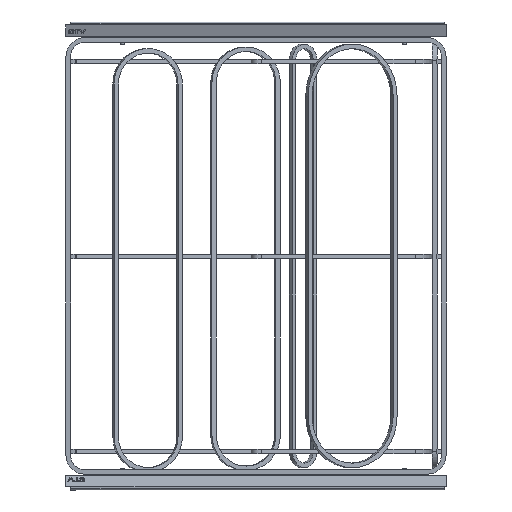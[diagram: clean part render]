
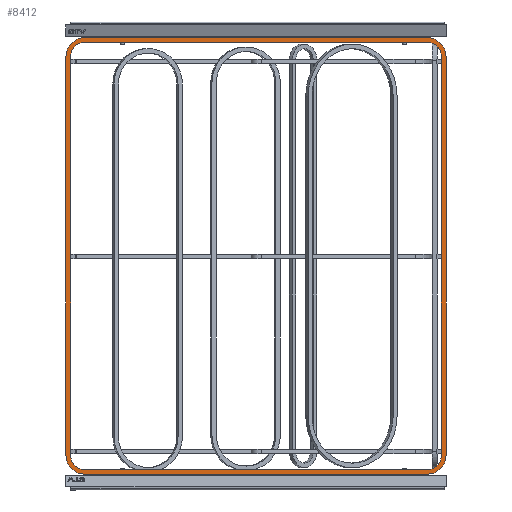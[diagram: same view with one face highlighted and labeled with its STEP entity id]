
A CAD part, front view. The second image highlights one B-rep face of the part: STEP entity #8412.
In plain terms, the highlighted planar face has unit normal (0.001, -1, 0) as drawn and (0, 1, 0) by its records, which use the part's own axes.
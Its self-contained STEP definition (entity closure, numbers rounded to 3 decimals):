
#205=FACE_BOUND('',#1384,.T.);
#413=CIRCLE('',#9138,17.25);
#416=CIRCLE('',#9142,22.75);
#417=CIRCLE('',#9146,17.25);
#420=CIRCLE('',#9150,22.75);
#421=CIRCLE('',#9154,17.25);
#424=CIRCLE('',#9158,22.75);
#425=CIRCLE('',#9162,17.25);
#428=CIRCLE('',#9167,22.75);
#935=FACE_OUTER_BOUND('',#1383,.T.);
#1383=EDGE_LOOP('',(#5863,#5864,#5865,#5866,#5867,#5868,#5869,#5870));
#1384=EDGE_LOOP('',(#5871,#5872,#5873,#5874,#5875,#5876,#5877,#5878));
#1922=LINE('',#12554,#2771);
#1926=LINE('',#12561,#2775);
#1930=LINE('',#12578,#2779);
#1934=LINE('',#12585,#2783);
#1938=LINE('',#12602,#2787);
#1942=LINE('',#12609,#2791);
#1947=LINE('',#12626,#2796);
#1948=LINE('',#12627,#2797);
#2771=VECTOR('',#10087,10.);
#2775=VECTOR('',#10093,10.);
#2779=VECTOR('',#10111,10.);
#2783=VECTOR('',#10117,10.);
#2787=VECTOR('',#10135,10.);
#2791=VECTOR('',#10141,10.);
#2796=VECTOR('',#10162,10.);
#2797=VECTOR('',#10163,10.);
#3612=VERTEX_POINT('',#12534);
#3613=VERTEX_POINT('',#12536);
#3615=VERTEX_POINT('',#12542);
#3618=VERTEX_POINT('',#12547);
#3620=VERTEX_POINT('',#12552);
#3621=VERTEX_POINT('',#12557);
#3624=VERTEX_POINT('',#12564);
#3625=VERTEX_POINT('',#12569);
#3628=VERTEX_POINT('',#12576);
#3629=VERTEX_POINT('',#12581);
#3632=VERTEX_POINT('',#12588);
#3633=VERTEX_POINT('',#12593);
#3636=VERTEX_POINT('',#12600);
#3637=VERTEX_POINT('',#12605);
#3640=VERTEX_POINT('',#12612);
#3642=VERTEX_POINT('',#12622);
#4466=EDGE_CURVE('',#3612,#3613,#413,.T.);
#4472=EDGE_CURVE('',#3615,#3618,#416,.T.);
#4474=EDGE_CURVE('',#3620,#3612,#1922,.T.);
#4478=EDGE_CURVE('',#3621,#3615,#1926,.T.);
#4480=EDGE_CURVE('',#3624,#3620,#417,.T.);
#4484=EDGE_CURVE('',#3625,#3621,#420,.T.);
#4486=EDGE_CURVE('',#3628,#3624,#1930,.T.);
#4490=EDGE_CURVE('',#3629,#3625,#1934,.T.);
#4492=EDGE_CURVE('',#3632,#3628,#421,.T.);
#4496=EDGE_CURVE('',#3633,#3629,#424,.T.);
#4498=EDGE_CURVE('',#3636,#3632,#1938,.T.);
#4502=EDGE_CURVE('',#3637,#3633,#1942,.T.);
#4504=EDGE_CURVE('',#3640,#3636,#425,.T.);
#4510=EDGE_CURVE('',#3642,#3637,#428,.T.);
#4511=EDGE_CURVE('',#3618,#3642,#1947,.T.);
#4512=EDGE_CURVE('',#3613,#3640,#1948,.T.);
#5863=ORIENTED_EDGE('',*,*,#4510,.T.);
#5864=ORIENTED_EDGE('',*,*,#4502,.T.);
#5865=ORIENTED_EDGE('',*,*,#4496,.T.);
#5866=ORIENTED_EDGE('',*,*,#4490,.T.);
#5867=ORIENTED_EDGE('',*,*,#4484,.T.);
#5868=ORIENTED_EDGE('',*,*,#4478,.T.);
#5869=ORIENTED_EDGE('',*,*,#4472,.T.);
#5870=ORIENTED_EDGE('',*,*,#4511,.T.);
#5871=ORIENTED_EDGE('',*,*,#4512,.F.);
#5872=ORIENTED_EDGE('',*,*,#4466,.F.);
#5873=ORIENTED_EDGE('',*,*,#4474,.F.);
#5874=ORIENTED_EDGE('',*,*,#4480,.F.);
#5875=ORIENTED_EDGE('',*,*,#4486,.F.);
#5876=ORIENTED_EDGE('',*,*,#4492,.F.);
#5877=ORIENTED_EDGE('',*,*,#4498,.F.);
#5878=ORIENTED_EDGE('',*,*,#4504,.F.);
#8134=PLANE('',#9168);
#8412=ADVANCED_FACE('',(#935,#205),#8134,.T.);
#9138=AXIS2_PLACEMENT_3D('',#12537,#10071,#10072);
#9142=AXIS2_PLACEMENT_3D('',#12549,#10082,#10083);
#9146=AXIS2_PLACEMENT_3D('',#12566,#10097,#10098);
#9150=AXIS2_PLACEMENT_3D('',#12573,#10106,#10107);
#9154=AXIS2_PLACEMENT_3D('',#12590,#10121,#10122);
#9158=AXIS2_PLACEMENT_3D('',#12597,#10130,#10131);
#9162=AXIS2_PLACEMENT_3D('',#12614,#10145,#10146);
#9167=AXIS2_PLACEMENT_3D('',#12624,#10158,#10159);
#9168=AXIS2_PLACEMENT_3D('',#12625,#10160,#10161);
#10071=DIRECTION('center_axis',(0.,1.,0.));
#10072=DIRECTION('ref_axis',(0.,0.,-1.));
#10082=DIRECTION('center_axis',(0.,1.,0.));
#10083=DIRECTION('ref_axis',(0.,0.,-1.));
#10087=DIRECTION('',(-1.,0.,0.));
#10093=DIRECTION('',(-1.,0.,0.));
#10097=DIRECTION('center_axis',(0.,1.,0.));
#10098=DIRECTION('ref_axis',(1.,0.,0.));
#10106=DIRECTION('center_axis',(0.,1.,0.));
#10107=DIRECTION('ref_axis',(1.,0.,0.));
#10111=DIRECTION('',(0.,0.,-1.));
#10117=DIRECTION('',(0.,0.,-1.));
#10121=DIRECTION('center_axis',(0.,1.,0.));
#10122=DIRECTION('ref_axis',(0.,0.,
1.));
#10130=DIRECTION('center_axis',(0.,1.,0.));
#10131=DIRECTION('ref_axis',(0.,0.,
1.));
#10135=DIRECTION('',(1.,0.,0.));
#10141=DIRECTION('',(1.,0.,0.));
#10145=DIRECTION('center_axis',(0.,1.,0.));
#10146=DIRECTION('ref_axis',(-1.,0.,0.));
#10158=DIRECTION('center_axis',(0.,1.,0.));
#10159=DIRECTION('ref_axis',(-1.,0.,0.));
#10160=DIRECTION('center_axis',(0.,1.,0.));
#10161=DIRECTION('ref_axis',(0.,0.,1.));
#10162=DIRECTION('',(0.,0.,1.));
#10163=DIRECTION('',(0.,0.,1.));
#12534=CARTESIAN_POINT('',(20.,2.75,-257.5));
#12536=CARTESIAN_POINT('',(2.75,2.75,-240.25));
#12537=CARTESIAN_POINT('Origin',(20.,2.75,-240.25));
#12542=CARTESIAN_POINT('',(20.,2.75,-263.));
#12547=CARTESIAN_POINT('',(-2.75,2.75,-240.25));
#12549=CARTESIAN_POINT('Origin',(20.,2.75,-240.25));
#12552=CARTESIAN_POINT('',(432.5,2.75,-257.5));
#12554=CARTESIAN_POINT('',(432.5,2.75,-257.5));
#12557=CARTESIAN_POINT('',(432.5,2.75,-263.));
#12561=CARTESIAN_POINT('',(432.5,2.75,-263.));
#12564=CARTESIAN_POINT('',(449.75,2.75,-240.25));
#12566=CARTESIAN_POINT('Origin',(432.5,2.75,-240.25));
#12569=CARTESIAN_POINT('',(455.25,2.75,-240.25));
#12573=CARTESIAN_POINT('Origin',(432.5,2.75,-240.25));
#12576=CARTESIAN_POINT('',(449.75,2.75,240.25));
#12578=CARTESIAN_POINT('',(449.75,2.75,240.25));
#12581=CARTESIAN_POINT('',(455.25,2.75,240.25));
#12585=CARTESIAN_POINT('',(455.25,2.75,240.25));
#12588=CARTESIAN_POINT('',(432.5,2.75,257.5));
#12590=CARTESIAN_POINT('Origin',(432.5,2.75,240.25));
#12593=CARTESIAN_POINT('',(432.5,2.75,263.));
#12597=CARTESIAN_POINT('Origin',(432.5,2.75,240.25));
#12600=CARTESIAN_POINT('',(20.,2.75,257.5));
#12602=CARTESIAN_POINT('',(20.,2.75,257.5));
#12605=CARTESIAN_POINT('',(20.,2.75,263.));
#12609=CARTESIAN_POINT('',(20.,2.75,263.));
#12612=CARTESIAN_POINT('',(2.75,2.75,240.25));
#12614=CARTESIAN_POINT('Origin',(20.,2.75,240.25));
#12622=CARTESIAN_POINT('',(-2.75,2.75,240.25));
#12624=CARTESIAN_POINT('Origin',(20.,2.75,240.25));
#12625=CARTESIAN_POINT('Origin',(2.75,2.75,240.25));
#12626=CARTESIAN_POINT('',(-2.75,2.75,-240.25));
#12627=CARTESIAN_POINT('',(2.75,2.75,-240.25));
